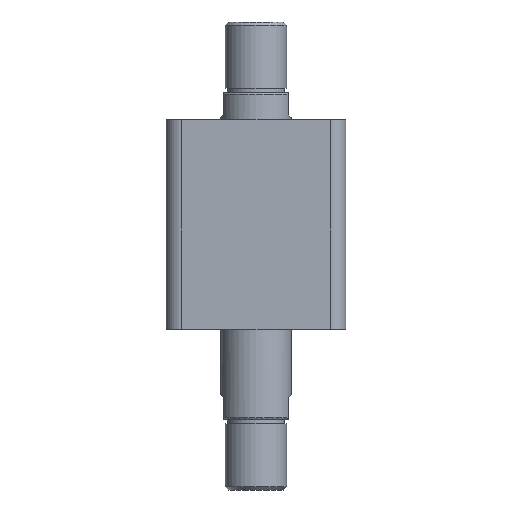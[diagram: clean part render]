
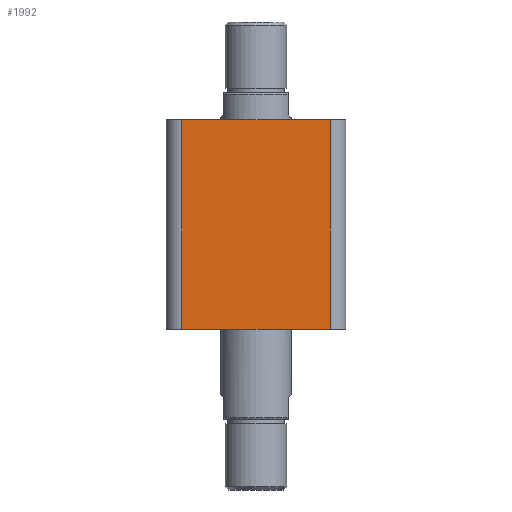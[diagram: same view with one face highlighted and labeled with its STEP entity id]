
A CAD part, front view. The second image highlights one B-rep face of the part: STEP entity #1992.
In plain terms, the highlighted planar face has unit normal (0, -1, 0).
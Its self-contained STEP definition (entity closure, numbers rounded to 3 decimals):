
#409 = ORIENTED_EDGE ( 'NONE', *, *, #2636, .T. ) ;
#411 = ORIENTED_EDGE ( 'NONE', *, *, #2638, .T. ) ;
#412 = ORIENTED_EDGE ( 'NONE', *, *, #2637, .F. ) ;
#413 = ORIENTED_EDGE ( 'NONE', *, *, #2639, .T. ) ;
#447 = EDGE_LOOP ( 'NONE', ( #413, #411, #412, #409 ) ) ;
#593 = FACE_OUTER_BOUND ( 'NONE', #447, .T. ) ;
#831 = VERTEX_POINT ( 'NONE', #1928 ) ;
#832 = VERTEX_POINT ( 'NONE', #1927 ) ;
#834 = VERTEX_POINT ( 'NONE', #1923 ) ;
#845 = VERTEX_POINT ( 'NONE', #1905 ) ;
#1256 = LINE ( 'NONE', #2485, #1261 ) ;
#1257 = LINE ( 'NONE', #2495, #1259 ) ;
#1259 = VECTOR ( 'NONE', #2494, 1000. ) ;
#1260 = LINE ( 'NONE', #2500, #1263 ) ;
#1261 = VECTOR ( 'NONE', #2499, 1000. ) ;
#1262 = LINE ( 'NONE', #2502, #1265 ) ;
#1263 = VECTOR ( 'NONE', #2501, 1000. ) ;
#1265 = VECTOR ( 'NONE', #2503, 1000. ) ;
#1905 = CARTESIAN_POINT ( 'NONE',  ( -47., -57., 0. ) ) ;
#1923 = CARTESIAN_POINT ( 'NONE',  ( 47., -57., 0. ) ) ;
#1927 = CARTESIAN_POINT ( 'NONE',  ( -47., -57., 133. ) ) ;
#1928 = CARTESIAN_POINT ( 'NONE',  ( 47., -57., 133. ) ) ;
#1992 = ADVANCED_FACE ( 'NONE', ( #593 ), #3441, .F. ) ;
#2485 = CARTESIAN_POINT ( 'NONE',  ( -57., -57., 133. ) ) ;
#2494 = DIRECTION ( 'NONE',  ( 0., 0., -1. ) ) ;
#2495 = CARTESIAN_POINT ( 'NONE',  ( -47., -57., 133. ) ) ;
#2499 = DIRECTION ( 'NONE',  ( 1., 0., 0. ) ) ;
#2500 = CARTESIAN_POINT ( 'NONE',  ( 47., -57., 133. ) ) ;
#2501 = DIRECTION ( 'NONE',  ( 0., 0., 1. ) ) ;
#2502 = CARTESIAN_POINT ( 'NONE',  ( -57., -57., 0. ) ) ;
#2503 = DIRECTION ( 'NONE',  ( 1., 0., 0. ) ) ;
#2636 = EDGE_CURVE ( 'NONE', #832, #845, #1257, .T. ) ;
#2637 = EDGE_CURVE ( 'NONE', #832, #831, #1256, .T. ) ;
#2638 = EDGE_CURVE ( 'NONE', #834, #831, #1260, .T. ) ;
#2639 = EDGE_CURVE ( 'NONE', #845, #834, #1262, .T. ) ;
#2830 = AXIS2_PLACEMENT_3D ( 'NONE', #3437, #3446, #3461 ) ;
#3437 = CARTESIAN_POINT ( 'NONE',  ( -57., -57., 133. ) ) ;
#3441 = PLANE ( 'NONE',  #2830 ) ;
#3446 = DIRECTION ( 'NONE',  ( 0., 1., 0. ) ) ;
#3461 = DIRECTION ( 'NONE',  ( 0., 0., 1. ) ) ;
